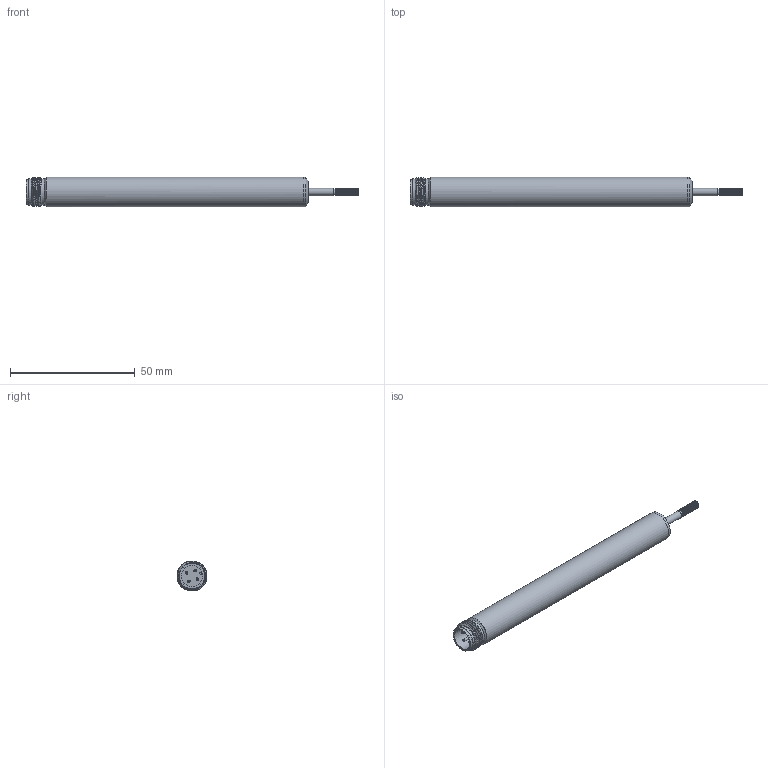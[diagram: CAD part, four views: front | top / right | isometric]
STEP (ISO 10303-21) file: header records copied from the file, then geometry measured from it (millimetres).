
FILE_DESCRIPTION( ( 'STEP AP214' ), '1' );
FILE_NAME( 'N:/Engineering/CAD_Solid/LVDT/SM/Kunden-3D-Modell/SM25-SG-SA.stp', '2011-12-12T13:25:18', ( ' ' ), ( ' ' ), 'XStep 1.0', ' ', ' ' );
FILE_SCHEMA( ( 'CONFIG_CONTROL_DESIGN) ( )' ) );
Length unit declared in the file: metre
Products named in the file (2): 1; 2
Bounding box: 133.1 x 12 x 12 mm (x, y, z)
Surface area: 5412.8 mm2 (no closed solid volume)
Topology: 0 solids, 50 shells, 51 faces, 202 edges, 179 vertices
Faces by surface type: cylinder 21, plane 12, cone 9, bspline 9
Full cylindrical faces by diameter (mm): 1 x4, 2.4 x1, 3 x1, 8.5 x1, 10 x1, 10.6 x2, 12 x2
Entity records: 6238 total; most frequent: CARTESIAN_POINT 4437, DIRECTION 296, ORIENTED_EDGE 166, EDGE_CURVE 166, VERTEX_POINT 166, AXIS2_PLACEMENT_3D 131, CIRCLE 88, FACE_BOUND 82
